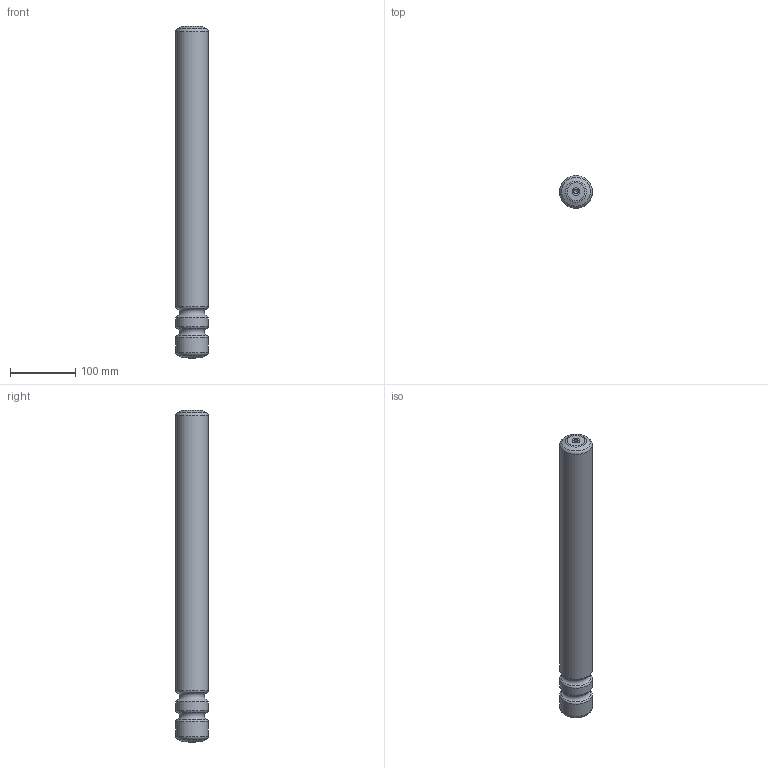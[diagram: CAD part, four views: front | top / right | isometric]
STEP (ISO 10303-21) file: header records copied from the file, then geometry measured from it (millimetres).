
FILE_DESCRIPTION(/* description */ ('Roller 2xgroove Ø50z1,5 galvanized'),/* implementation_level */ '2;1');
FILE_NAME(/* name */ 'RO9200500510.stp',/* time_stamp */ '2024-03-13T16:16:31+01:00',/* author */ ('rdegreef'),/* organization */ ('BCK Holland b.v.'),/* preprocessor_version */ 'ST-DEVELOPER v19.2',/* originating_system */ 'Autodesk Inventor 2023',/* authorisation */ '');
FILE_SCHEMA (('AUTOMOTIVE_DESIGN { 1 0 10303 214 3 1 1 }'));
Length unit declared in the file: millimetre
Products named in the file (1): RO9200500510
Bounding box: 50 x 50 x 510 mm (x, y, z)
Volume: 974506.8 mm3; surface area: 83769.4 mm2
Topology: 1 solids, 1 shells, 25 faces, 54 edges, 33 vertices
Faces by surface type: torus 10, cylinder 7, cone 4, plane 4
Full cylindrical faces by diameter (mm): 6.647 x2, 12 x2, 50 x3
Entity records: 782 total; most frequent: DIRECTION 145, CARTESIAN_POINT 111, ORIENTED_EDGE 104, AXIS2_PLACEMENT_3D 67, EDGE_CURVE 52, CIRCLE 41, VERTEX_POINT 33, EDGE_LOOP 29
